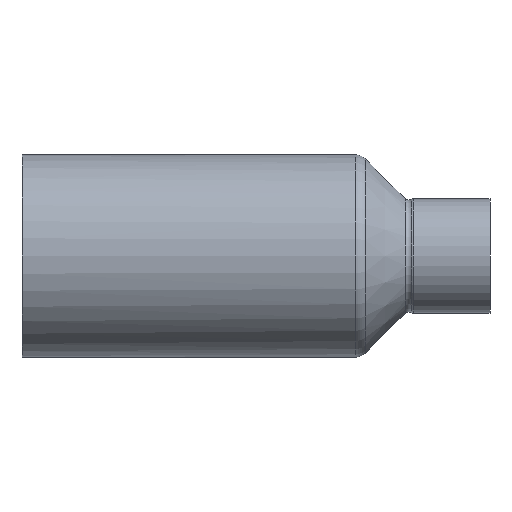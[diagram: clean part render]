
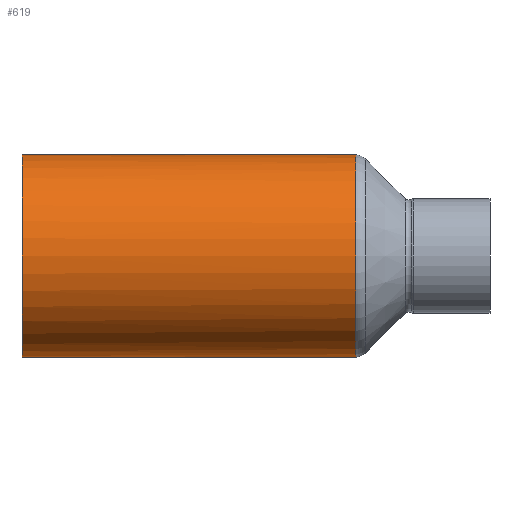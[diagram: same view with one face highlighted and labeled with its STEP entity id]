
A CAD part, front view. The second image highlights one B-rep face of the part: STEP entity #619.
In plain terms, the highlighted cylindrical face has radius 15.175 mm (diameter 30.35 mm), a full revolution.
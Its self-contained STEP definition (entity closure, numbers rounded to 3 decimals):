
#24=CYLINDRICAL_SURFACE('',#703,15.175);
#36=LINE('',#1671,#47);
#47=VECTOR('',#841,15.175);
#79=B_SPLINE_CURVE_WITH_KNOTS('',3,(#1601,#1602,#1603,#1604,#1605,#1606,
#1607,#1608,#1609),.UNSPECIFIED.,.F.,.F.,(4,1,1,1,1,1,4),(-11.19,
-11.09,-10.99,-10.79,-10.391,
-9.591,-9.473),.UNSPECIFIED.);
#80=B_SPLINE_CURVE_WITH_KNOTS('',3,(#1611,#1612,#1613,#1614,#1615,#1616,
#1617,#1618,#1619),.UNSPECIFIED.,.F.,.F.,(4,1,1,1,1,1,4),(-1.858,
-1.599,-0.799,-0.4,-0.2,
-0.1,0.),.UNSPECIFIED.);
#81=B_SPLINE_CURVE_WITH_KNOTS('',3,(#1621,#1622,#1623,#1624,#1625,#1626,
#1627,#1628,#1629),.UNSPECIFIED.,.F.,.F.,(4,1,1,1,1,1,4),(-3.739,
-3.73,-3.197,-2.664,-2.131,
-1.998,-1.858),.UNSPECIFIED.);
#82=B_SPLINE_CURVE_WITH_KNOTS('',3,(#1630,#1631,#1632,#1633,#1634,#1635,
#1636,#1637,#1638,#1639,#1640,#1641,#1642,#1643,#1644,#1645,#1646,#1647,
#1648,#1649,#1650,#1651,#1652,#1653,#1654,#1655,#1656,#1657,#1658,#1659,
#1660,#1661,#1662,#1663,#1664,#1665,#1666,#1667,#1668,#1669),
 .UNSPECIFIED.,.F.,.F.,(4,3,3,3,3,3,3,3,3,3,3,3,3,4),(-7.313,
-6.927,-6.394,-6.128,-5.861,
-5.728,-5.662,-5.595,-5.462,-5.329,
-5.062,-4.796,-4.263,-3.739),
 .UNSPECIFIED.);
#114=FACE_OUTER_BOUND('',#148,.T.);
#148=EDGE_LOOP('',(#486,#487,#488,#489,#490,#491,#492,#493,#494,#495));
#199=CIRCLE('',#697,15.175);
#200=CIRCLE('',#698,15.175);
#204=CIRCLE('',#704,15.175);
#205=CIRCLE('',#705,15.175);
#258=VERTEX_POINT('',#1465);
#262=VERTEX_POINT('',#1472);
#263=VERTEX_POINT('',#1474);
#268=VERTEX_POINT('',#1600);
#269=VERTEX_POINT('',#1610);
#270=VERTEX_POINT('',#1620);
#271=VERTEX_POINT('',#1670);
#272=VERTEX_POINT('',#1672);
#341=EDGE_CURVE('',#262,#263,#199,.T.);
#342=EDGE_CURVE('',#263,#258,#200,.T.);
#352=EDGE_CURVE('',#268,#262,#79,.T.);
#353=EDGE_CURVE('',#269,#268,#80,.T.);
#354=EDGE_CURVE('',#270,#269,#81,.T.);
#355=EDGE_CURVE('',#258,#270,#82,.T.);
#356=EDGE_CURVE('',#263,#271,#36,.T.);
#357=EDGE_CURVE('',#271,#272,#204,.T.);
#358=EDGE_CURVE('',#272,#271,#205,.T.);
#486=ORIENTED_EDGE('',*,*,#341,.F.);
#487=ORIENTED_EDGE('',*,*,#352,.F.);
#488=ORIENTED_EDGE('',*,*,#353,.F.);
#489=ORIENTED_EDGE('',*,*,#354,.F.);
#490=ORIENTED_EDGE('',*,*,#355,.F.);
#491=ORIENTED_EDGE('',*,*,#342,.F.);
#492=ORIENTED_EDGE('',*,*,#356,.T.);
#493=ORIENTED_EDGE('',*,*,#357,.T.);
#494=ORIENTED_EDGE('',*,*,#358,.T.);
#495=ORIENTED_EDGE('',*,*,#356,.F.);
#619=ADVANCED_FACE('',(#114),#24,.T.);
#697=AXIS2_PLACEMENT_3D('',#1475,#827,#828);
#698=AXIS2_PLACEMENT_3D('',#1476,#829,#830);
#703=AXIS2_PLACEMENT_3D('',#1599,#839,#840);
#704=AXIS2_PLACEMENT_3D('',#1673,#842,#843);
#705=AXIS2_PLACEMENT_3D('',#1674,#844,#845);
#827=DIRECTION('center_axis',(1.,0.,0.));
#828=DIRECTION('ref_axis',(0.,-1.,0.));
#829=DIRECTION('center_axis',(1.,0.,0.));
#830=DIRECTION('ref_axis',(0.,-1.,0.));
#839=DIRECTION('center_axis',(1.,0.,0.));
#840=DIRECTION('ref_axis',(0.,1.,0.));
#841=DIRECTION('',(-1.,0.,0.));
#842=DIRECTION('center_axis',(1.,0.,0.));
#843=DIRECTION('ref_axis',(0.,1.,0.));
#844=DIRECTION('center_axis',(1.,0.,0.));
#845=DIRECTION('ref_axis',(0.,1.,0.));
#1465=CARTESIAN_POINT('',(14.922,11.985,-9.308));
#1472=CARTESIAN_POINT('',(14.922,11.985,9.308));
#1474=CARTESIAN_POINT('',(14.922,-15.175,0.));
#1475=CARTESIAN_POINT('Origin',(14.922,0.,0.));
#1476=CARTESIAN_POINT('Origin',(14.922,0.,0.));
#1599=CARTESIAN_POINT('Origin',(0.,0.,0.));
#1600=CARTESIAN_POINT('',(0.,2.046,15.037));
#1601=CARTESIAN_POINT('Ctrl Pts',(0.,2.046,
15.037));
#1602=CARTESIAN_POINT('Ctrl Pts',(0.414,2.046,15.037));
#1603=CARTESIAN_POINT('Ctrl Pts',(1.229,2.216,15.014));
#1604=CARTESIAN_POINT('Ctrl Pts',(2.652,2.886,14.906));
#1605=CARTESIAN_POINT('Ctrl Pts',(4.899,4.338,14.59));
#1606=CARTESIAN_POINT('Ctrl Pts',(9.026,7.402,13.481));
#1607=CARTESIAN_POINT('Ctrl Pts',(12.577,10.157,11.522));
#1608=CARTESIAN_POINT('Ctrl Pts',(14.66,11.781,9.57));
#1609=CARTESIAN_POINT('Ctrl Pts',(14.92,11.984,9.309));
#1610=CARTESIAN_POINT('',(-15.806,12.675,8.344));
#1611=CARTESIAN_POINT('Ctrl Pts',(-15.807,12.676,8.342));
#1612=CARTESIAN_POINT('Ctrl Pts',(-15.281,12.265,8.965));
#1613=CARTESIAN_POINT('Ctrl Pts',(-12.945,10.443,11.325));
#1614=CARTESIAN_POINT('Ctrl Pts',(-9.002,7.383,13.488));
#1615=CARTESIAN_POINT('Ctrl Pts',(-4.889,4.332,14.591));
#1616=CARTESIAN_POINT('Ctrl Pts',(-2.655,2.888,14.906));
#1617=CARTESIAN_POINT('Ctrl Pts',(-1.23,2.217,15.014));
#1618=CARTESIAN_POINT('Ctrl Pts',(-0.414,2.046,15.037));
#1619=CARTESIAN_POINT('Ctrl Pts',(0.,2.046,
15.037));
#1620=CARTESIAN_POINT('',(-15.806,12.675,-8.344));
#1621=CARTESIAN_POINT('Ctrl Pts',(-15.804,12.674,-8.345));
#1622=CARTESIAN_POINT('Ctrl Pts',(-15.823,12.688,-8.323));
#1623=CARTESIAN_POINT('Ctrl Pts',(-16.917,13.543,-7.016));
#1624=CARTESIAN_POINT('Ctrl Pts',(-18.713,14.95,-3.995));
#1625=CARTESIAN_POINT('Ctrl Pts',(-19.323,15.428,1.378));
#1626=CARTESIAN_POINT('Ctrl Pts',(-18.003,14.393,5.155));
#1627=CARTESIAN_POINT('Ctrl Pts',(-16.621,13.312,7.319));
#1628=CARTESIAN_POINT('Ctrl Pts',(-16.092,12.898,8.004));
#1629=CARTESIAN_POINT('Ctrl Pts',(-15.807,12.676,8.342));
#1630=CARTESIAN_POINT('Ctrl Pts',(14.923,11.986,-9.307));
#1631=CARTESIAN_POINT('Ctrl Pts',(14.074,11.324,-10.16));
#1632=CARTESIAN_POINT('Ctrl Pts',(13.14,10.598,-10.908));
#1633=CARTESIAN_POINT('Ctrl Pts',(12.15,9.831,-11.56));
#1634=CARTESIAN_POINT('Ctrl Pts',(10.786,8.774,-12.458));
#1635=CARTESIAN_POINT('Ctrl Pts',(9.316,7.641,-13.172));
#1636=CARTESIAN_POINT('Ctrl Pts',(7.789,6.495,-13.715));
#1637=CARTESIAN_POINT('Ctrl Pts',(7.026,5.922,-13.987));
#1638=CARTESIAN_POINT('Ctrl Pts',(6.248,5.346,-14.215));
#1639=CARTESIAN_POINT('Ctrl Pts',(5.449,4.773,-14.405));
#1640=CARTESIAN_POINT('Ctrl Pts',(4.65,4.199,-14.594));
#1641=CARTESIAN_POINT('Ctrl Pts',(3.829,3.629,-14.745));
#1642=CARTESIAN_POINT('Ctrl Pts',(2.951,3.106,-14.854));
#1643=CARTESIAN_POINT('Ctrl Pts',(2.512,2.844,-14.909));
#1644=CARTESIAN_POINT('Ctrl Pts',(2.058,2.594,-14.953));
#1645=CARTESIAN_POINT('Ctrl Pts',(1.57,2.394,-14.985));
#1646=CARTESIAN_POINT('Ctrl Pts',(1.325,2.293,-15.001));
#1647=CARTESIAN_POINT('Ctrl Pts',(1.073,2.205,-15.014));
#1648=CARTESIAN_POINT('Ctrl Pts',(0.807,2.143,-15.023));
#1649=CARTESIAN_POINT('Ctrl Pts',(0.541,2.08,-15.032));
#1650=CARTESIAN_POINT('Ctrl Pts',(0.262,2.044,-15.037));
#1651=CARTESIAN_POINT('Ctrl Pts',(-0.012,2.045,
-15.037));
#1652=CARTESIAN_POINT('Ctrl Pts',(-0.562,2.047,-15.036));
#1653=CARTESIAN_POINT('Ctrl Pts',(-1.095,2.2,-15.016));
#1654=CARTESIAN_POINT('Ctrl Pts',(-1.585,2.401,-14.984));
#1655=CARTESIAN_POINT('Ctrl Pts',(-2.075,2.601,-14.952));
#1656=CARTESIAN_POINT('Ctrl Pts',(-2.521,2.849,-14.908));
#1657=CARTESIAN_POINT('Ctrl Pts',(-2.957,3.111,-14.853));
#1658=CARTESIAN_POINT('Ctrl Pts',(-3.83,3.634,-14.744));
#1659=CARTESIAN_POINT('Ctrl Pts',(-4.664,4.211,-14.591));
#1660=CARTESIAN_POINT('Ctrl Pts',(-5.47,4.788,-14.4));
#1661=CARTESIAN_POINT('Ctrl Pts',(-6.276,5.365,-14.208));
#1662=CARTESIAN_POINT('Ctrl Pts',(-7.054,5.943,-13.978));
#1663=CARTESIAN_POINT('Ctrl Pts',(-7.817,6.516,-13.705));
#1664=CARTESIAN_POINT('Ctrl Pts',(-9.343,7.663,-13.159));
#1665=CARTESIAN_POINT('Ctrl Pts',(-10.808,8.792,-12.445));
#1666=CARTESIAN_POINT('Ctrl Pts',(-12.169,9.846,-11.547));
#1667=CARTESIAN_POINT('Ctrl Pts',(-13.507,10.882,-10.665));
#1668=CARTESIAN_POINT('Ctrl Pts',(-14.743,11.845,-9.605));
#1669=CARTESIAN_POINT('Ctrl Pts',(-15.804,12.674,-8.345));
#1670=CARTESIAN_POINT('',(-35.,-15.175,0.));
#1671=CARTESIAN_POINT('',(0.,-15.175,0.));
#1672=CARTESIAN_POINT('',(-35.,15.175,0.));
#1673=CARTESIAN_POINT('Origin',(-35.,0.,0.));
#1674=CARTESIAN_POINT('Origin',(-35.,0.,0.));
